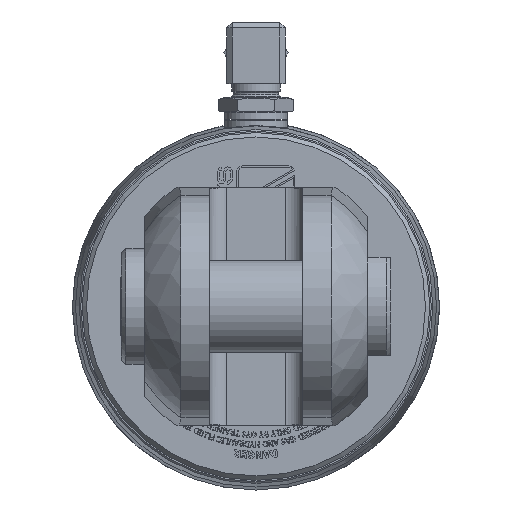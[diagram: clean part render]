
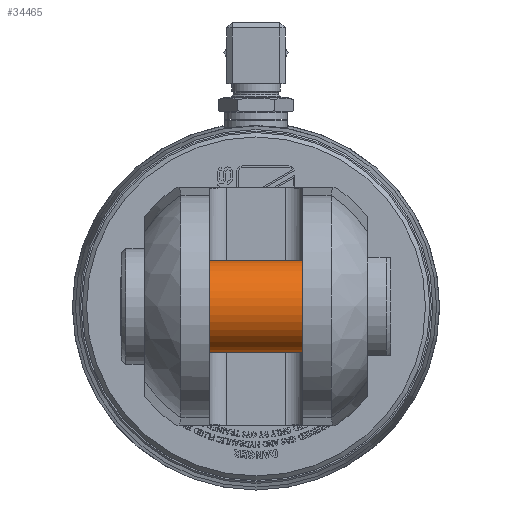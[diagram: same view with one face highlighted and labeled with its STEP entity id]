
A CAD part, left-side view. The second image highlights one B-rep face of the part: STEP entity #34465.
In plain terms, the highlighted cylindrical face has radius 15.875 mm (diameter 31.75 mm), a full revolution.
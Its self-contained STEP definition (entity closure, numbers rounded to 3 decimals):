
#5063=LINE('',#63459,#8039);
#8039=VECTOR('',#42399,15.875);
#8121=CYLINDRICAL_SURFACE('',#36139,15.875);
#11663=FACE_OUTER_BOUND('',#13612,.T.);
#13612=EDGE_LOOP('',(#31581,#31582,#31583,#31584,#31585,#31586));
#13972=CIRCLE('',#35945,15.875);
#13973=CIRCLE('',#35946,15.875);
#13980=CIRCLE('',#35968,15.875);
#13981=CIRCLE('',#35969,15.875);
#17062=VERTEX_POINT('',#62791);
#17063=VERTEX_POINT('',#62792);
#17074=VERTEX_POINT('',#62849);
#17075=VERTEX_POINT('',#62850);
#21755=EDGE_CURVE('',#17062,#17063,#13972,.T.);
#21756=EDGE_CURVE('',#17063,#17062,#13973,.T.);
#21779=EDGE_CURVE('',#17074,#17075,#13980,.T.);
#21780=EDGE_CURVE('',#17075,#17074,#13981,.T.);
#22030=EDGE_CURVE('',#17075,#17063,#5063,.T.);
#31581=ORIENTED_EDGE('',*,*,#21779,.T.);
#31582=ORIENTED_EDGE('',*,*,#22030,.T.);
#31583=ORIENTED_EDGE('',*,*,#21756,.T.);
#31584=ORIENTED_EDGE('',*,*,#21755,.T.);
#31585=ORIENTED_EDGE('',*,*,#22030,.F.);
#31586=ORIENTED_EDGE('',*,*,#21780,.T.);
#34465=ADVANCED_FACE('',(#11663),#8121,.T.);
#35945=AXIS2_PLACEMENT_3D('',#62793,#41881,#41882);
#35946=AXIS2_PLACEMENT_3D('',#62794,#41883,#41884);
#35968=AXIS2_PLACEMENT_3D('',#62851,#41937,#41938);
#35969=AXIS2_PLACEMENT_3D('',#62852,#41939,#41940);
#36139=AXIS2_PLACEMENT_3D('',#63458,#42397,#42398);
#41881=DIRECTION('center_axis',(0.,-1.,0.));
#41882=DIRECTION('ref_axis',(0.,0.,
1.));
#41883=DIRECTION('center_axis',(0.,-1.,0.));
#41884=DIRECTION('ref_axis',(0.,0.,
1.));
#41937=DIRECTION('center_axis',(0.,1.,0.));
#41938=DIRECTION('ref_axis',(0.,0.,
1.));
#41939=DIRECTION('center_axis',(0.,1.,0.));
#41940=DIRECTION('ref_axis',(0.,0.,
1.));
#42397=DIRECTION('center_axis',(0.,-1.,0.));
#42398=DIRECTION('ref_axis',(0.,0.,
1.));
#42399=DIRECTION('',(0.,1.,0.));
#62791=CARTESIAN_POINT('',(-1084.675,15.975,0.));
#62792=CARTESIAN_POINT('',(-1100.55,15.975,-15.875));
#62793=CARTESIAN_POINT('Origin',(-1100.55,15.975,0.));
#62794=CARTESIAN_POINT('Origin',(-1100.55,15.975,0.));
#62849=CARTESIAN_POINT('',(-1084.675,-15.975,0.));
#62850=CARTESIAN_POINT('',(-1100.55,-15.975,-15.875));
#62851=CARTESIAN_POINT('Origin',(-1100.55,-15.975,0.));
#62852=CARTESIAN_POINT('Origin',(-1100.55,-15.975,0.));
#63458=CARTESIAN_POINT('Origin',(-1100.55,0.,0.));
#63459=CARTESIAN_POINT('',(-1100.55,0.,-15.875));
